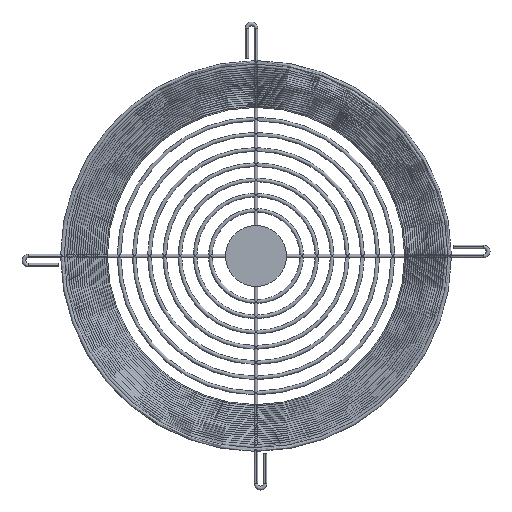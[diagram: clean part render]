
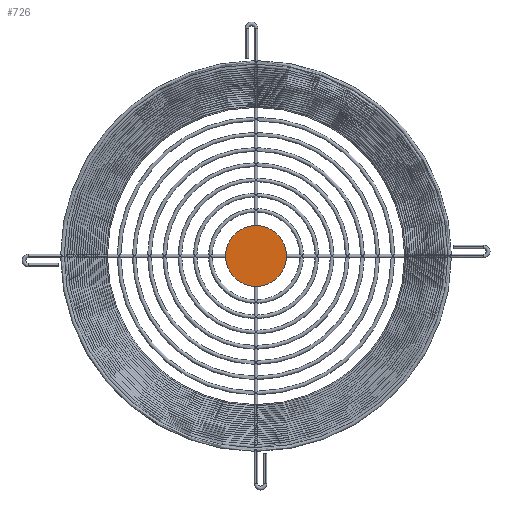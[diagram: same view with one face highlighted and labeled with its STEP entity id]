
A CAD part, front view. The second image highlights one B-rep face of the part: STEP entity #726.
In plain terms, the highlighted planar face has unit normal (0, -1, 0).
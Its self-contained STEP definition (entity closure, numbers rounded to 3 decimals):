
#726=ADVANCED_FACE('',(#1450),#1451,.T.);
#1450=FACE_OUTER_BOUND('',#2167,.T.);
#1451=PLANE('',#2168);
#2167=EDGE_LOOP('',(#5527,#5528));
#2168=AXIS2_PLACEMENT_3D('',#5529,#5530,#5531);
#5527=ORIENTED_EDGE('',*,*,#6269,.T.);
#5528=ORIENTED_EDGE('',*,*,#6998,.T.);
#5529=CARTESIAN_POINT('',(0.0,185.8,0.0));
#5530=DIRECTION('',(0.0,-1.0,0.0));
#5531=DIRECTION('',(1.0,0.0,0.0));
#6269=EDGE_CURVE('',#8310,#8308,#8311,.T.);
#6998=EDGE_CURVE('',#8308,#8310,#9210,.T.);
#8308=VERTEX_POINT('',#18766);
#8310=VERTEX_POINT('',#18769);
#8311=CIRCLE('',#18770,33.5);
#9210=CIRCLE('',#26524,33.5);
#18766=CARTESIAN_POINT('',(-33.5,185.8,0.));
#18769=CARTESIAN_POINT('',(33.5,185.8,0.0));
#18770=AXIS2_PLACEMENT_3D('',#27268,#27269,#27270);
#26524=AXIS2_PLACEMENT_3D('',#27800,#27801,#27802);
#27268=CARTESIAN_POINT('',(0.0,185.8,0.0));
#27269=DIRECTION('',(0.0,-1.0,0.0));
#27270=DIRECTION('',(1.0,0.0,0.0));
#27800=CARTESIAN_POINT('',(0.0,185.8,0.0));
#27801=DIRECTION('',(0.0,-1.0,0.0));
#27802=DIRECTION('',(1.0,0.0,0.0));
